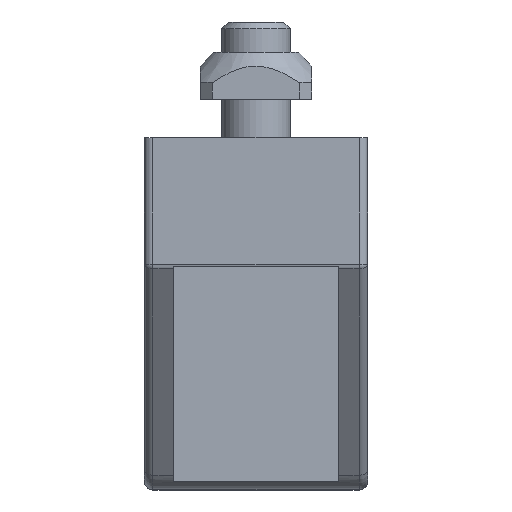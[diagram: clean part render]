
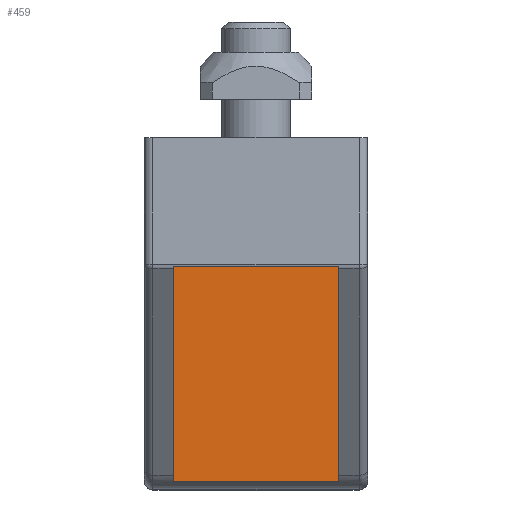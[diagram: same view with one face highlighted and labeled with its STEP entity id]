
A CAD part, left-side view. The second image highlights one B-rep face of the part: STEP entity #459.
In plain terms, the highlighted planar face has unit normal (-1, 0, 0) as drawn and (1, 0, 0) by its records, which use the part's own axes.
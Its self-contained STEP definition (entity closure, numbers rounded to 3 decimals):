
#345=CARTESIAN_POINT('',(81.0,9.65,40.043));
#346=VERTEX_POINT('',#345);
#378=CARTESIAN_POINT('',(81.,-9.65,40.043));
#379=VERTEX_POINT('',#378);
#387=CARTESIAN_POINT('',(81.,-9.65,40.043));
#388=DIRECTION('',(0.0,1.0,0.0));
#389=VECTOR('',#388,19.3);
#390=LINE('',#387,#389);
#391=EDGE_CURVE('',#379,#346,#390,.T.);
#402=CARTESIAN_POINT('',(81.0,9.65,15.));
#403=VERTEX_POINT('',#402);
#404=CARTESIAN_POINT('',(81.0,9.65,15.));
#405=DIRECTION('',(0.0,0.0,1.0));
#406=VECTOR('',#405,25.043);
#407=LINE('',#404,#406);
#408=EDGE_CURVE('',#403,#346,#407,.T.);
#436=CARTESIAN_POINT('',(81.,-9.65,15.));
#437=DIRECTION('',(-1.0,0.0,0.0));
#438=DIRECTION('',(0.0,0.0,1.0));
#439=AXIS2_PLACEMENT_3D('',#436,#437,#438);
#440=PLANE('',#439);
#441=ORIENTED_EDGE('',*,*,#391,.F.);
#442=CARTESIAN_POINT('',(81.,-9.65,15.));
#443=VERTEX_POINT('',#442);
#444=CARTESIAN_POINT('',(81.,-9.65,15.));
#445=DIRECTION('',(0.0,0.0,1.0));
#446=VECTOR('',#445,25.043);
#447=LINE('',#444,#446);
#448=EDGE_CURVE('',#443,#379,#447,.T.);
#449=ORIENTED_EDGE('',*,*,#448,.F.);
#450=CARTESIAN_POINT('',(81.,-9.65,15.));
#451=DIRECTION('',(0.0,1.0,0.0));
#452=VECTOR('',#451,19.3);
#453=LINE('',#450,#452);
#454=EDGE_CURVE('',#443,#403,#453,.T.);
#455=ORIENTED_EDGE('',*,*,#454,.T.);
#456=ORIENTED_EDGE('',*,*,#408,.T.);
#457=EDGE_LOOP('',(#441,#449,#455,#456));
#458=FACE_OUTER_BOUND('',#457,.T.);
#459=ADVANCED_FACE('',(#458),#440,.F.);
